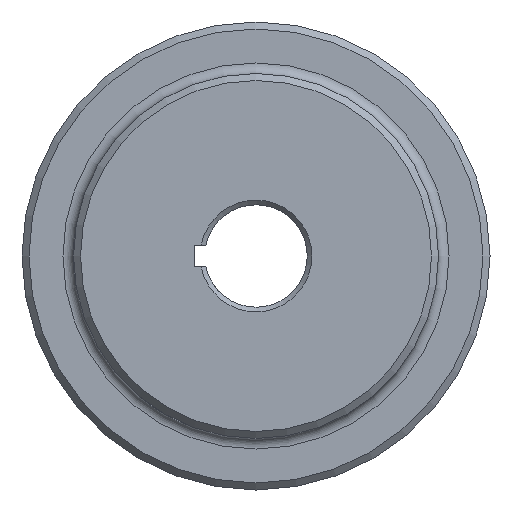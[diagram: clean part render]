
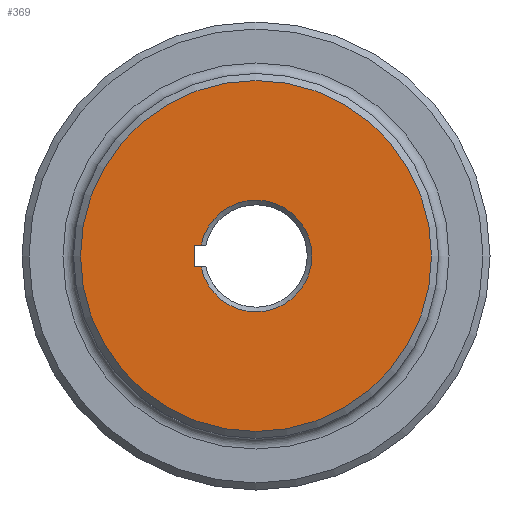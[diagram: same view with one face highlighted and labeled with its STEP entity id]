
A CAD part, left-side view. The second image highlights one B-rep face of the part: STEP entity #369.
In plain terms, the highlighted planar face has unit normal (-1, 0, 0).
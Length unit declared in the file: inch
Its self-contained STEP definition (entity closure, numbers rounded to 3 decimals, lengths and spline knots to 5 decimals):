
#59 = PLANE ( 'NONE',  #1663 ) ;
#65 = EDGE_CURVE ( 'NONE', #827, #1002, #2239, .T. ) ;
#74 = DIRECTION ( 'NONE',  ( 0., 0., -1. ) ) ;
#152 = CARTESIAN_POINT ( 'NONE',  ( 0., 0., -0.0935 ) ) ;
#223 = ORIENTED_EDGE ( 'NONE', *, *, #839, .F. ) ;
#331 = LINE ( 'NONE', #2307, #1887 ) ;
#369 = ADVANCED_FACE ( 'NONE', ( #466, #2066 ), #59, .F. ) ;
#394 = VECTOR ( 'NONE', #819, 39.37008 ) ;
#407 = CARTESIAN_POINT ( 'NONE',  ( 0., 0.52735, -0.0935 ) ) ;
#466 = FACE_OUTER_BOUND ( 'NONE', #938, .T. ) ;
#520 = CIRCLE ( 'NONE', #2289, 1.5 ) ;
#763 = DIRECTION ( 'NONE',  ( -1., 0., 0. ) ) ;
#819 = DIRECTION ( 'NONE',  ( 0., -1., 0. ) ) ;
#827 = VERTEX_POINT ( 'NONE', #2091 ) ;
#839 = EDGE_CURVE ( 'NONE', #1741, #1002, #1294, .T. ) ;
#893 = VERTEX_POINT ( 'NONE', #1710 ) ;
#921 = LINE ( 'NONE', #1766, #2324 ) ;
#938 = EDGE_LOOP ( 'NONE', ( #2243 ) ) ;
#994 = DIRECTION ( 'NONE',  ( 0., 0., -1. ) ) ;
#1002 = VERTEX_POINT ( 'NONE', #1560 ) ;
#1032 = ORIENTED_EDGE ( 'NONE', *, *, #65, .T. ) ;
#1067 = EDGE_CURVE ( 'NONE', #2187, #1741, #331, .T. ) ;
#1101 = DIRECTION ( 'NONE',  ( 1., 0., 0. ) ) ;
#1112 = EDGE_CURVE ( 'NONE', #827, #2187, #921, .T. ) ;
#1224 = DIRECTION ( 'NONE',  ( 0., 0., -1. ) ) ;
#1294 = LINE ( 'NONE', #152, #394 ) ;
#1295 = CARTESIAN_POINT ( 'NONE',  ( 0., 0., 0. ) ) ;
#1560 = CARTESIAN_POINT ( 'NONE',  ( 0., 0.46841, -0.0935 ) ) ;
#1598 = EDGE_CURVE ( 'NONE', #893, #893, #520, .T. ) ;
#1663 = AXIS2_PLACEMENT_3D ( 'NONE', #1921, #1101, #1224 ) ;
#1680 = DIRECTION ( 'NONE',  ( 1., 0., 0. ) ) ;
#1687 = ORIENTED_EDGE ( 'NONE', *, *, #1112, .F. ) ;
#1695 = DIRECTION ( 'NONE',  ( 0., 0., -1. ) ) ;
#1701 = CARTESIAN_POINT ( 'NONE',  ( 0., 0.52735, 0.0935 ) ) ;
#1710 = CARTESIAN_POINT ( 'NONE',  ( 0., 0., -1.5 ) ) ;
#1741 = VERTEX_POINT ( 'NONE', #407 ) ;
#1766 = CARTESIAN_POINT ( 'NONE',  ( 0., 0., 0.0935 ) ) ;
#1834 = ORIENTED_EDGE ( 'NONE', *, *, #1067, .F. ) ;
#1887 = VECTOR ( 'NONE', #1695, 39.37008 ) ;
#1921 = CARTESIAN_POINT ( 'NONE',  ( 0., 0., 0. ) ) ;
#1946 = AXIS2_PLACEMENT_3D ( 'NONE', #1295, #1680, #74 ) ;
#2020 = CARTESIAN_POINT ( 'NONE',  ( 0., 0., 0. ) ) ;
#2066 = FACE_BOUND ( 'NONE', #2259, .T. ) ;
#2070 = DIRECTION ( 'NONE',  ( 0., 1., 0. ) ) ;
#2091 = CARTESIAN_POINT ( 'NONE',  ( 0., 0.46841, 0.0935 ) ) ;
#2187 = VERTEX_POINT ( 'NONE', #1701 ) ;
#2239 = CIRCLE ( 'NONE', #1946, 0.47765 ) ;
#2243 = ORIENTED_EDGE ( 'NONE', *, *, #1598, .T. ) ;
#2259 = EDGE_LOOP ( 'NONE', ( #1687, #1032, #223, #1834 ) ) ;
#2289 = AXIS2_PLACEMENT_3D ( 'NONE', #2020, #763, #994 ) ;
#2307 = CARTESIAN_POINT ( 'NONE',  ( 0., 0.52735, -0.0935 ) ) ;
#2324 = VECTOR ( 'NONE', #2070, 39.37008 ) ;
